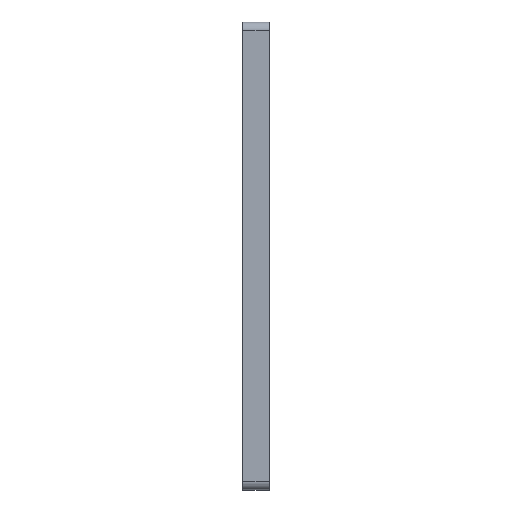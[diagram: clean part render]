
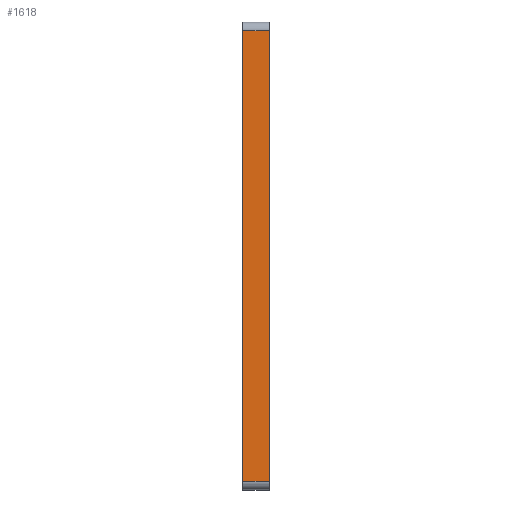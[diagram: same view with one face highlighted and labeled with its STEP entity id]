
A CAD part, left-side view. The second image highlights one B-rep face of the part: STEP entity #1618.
In plain terms, the highlighted planar face has unit normal (-1, 0, 0).
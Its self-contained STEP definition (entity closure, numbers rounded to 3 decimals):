
#112=FACE_OUTER_BOUND('',#230,.T.);
#230=EDGE_LOOP('',(#1359,#1360,#1361,#1362));
#274=LINE('',#2235,#462);
#353=LINE('',#2436,#541);
#437=LINE('',#2614,#625);
#438=LINE('',#2615,#626);
#462=VECTOR('',#1806,10.);
#541=VECTOR('',#1949,10.);
#625=VECTOR('',#2115,10.);
#626=VECTOR('',#2116,10.);
#694=VERTEX_POINT('',#2232);
#695=VERTEX_POINT('',#2234);
#784=VERTEX_POINT('',#2433);
#785=VERTEX_POINT('',#2435);
#846=EDGE_CURVE('',#695,#694,#274,.T.);
#946=EDGE_CURVE('',#784,#785,#353,.T.);
#1045=EDGE_CURVE('',#785,#694,#437,.T.);
#1046=EDGE_CURVE('',#695,#784,#438,.T.);
#1359=ORIENTED_EDGE('',*,*,#846,.T.);
#1360=ORIENTED_EDGE('',*,*,#1045,.F.);
#1361=ORIENTED_EDGE('',*,*,#946,.F.);
#1362=ORIENTED_EDGE('',*,*,#1046,.F.);
#1556=PLANE('',#1750);
#1618=ADVANCED_FACE('',(#112),#1556,.T.);
#1750=AXIS2_PLACEMENT_3D('',#2613,#2113,#2114);
#1806=DIRECTION('',(0.,0.,-1.));
#1949=DIRECTION('',(0.,0.,-1.));
#2113=DIRECTION('center_axis',(-1.,0.,0.));
#2114=DIRECTION('ref_axis',(0.,0.,-1.));
#2115=DIRECTION('',(0.,1.,0.));
#2116=DIRECTION('',(0.,-1.,0.));
#2232=CARTESIAN_POINT('',(98.173,7.6,-25.924));
#2234=CARTESIAN_POINT('',(98.173,7.6,76.076));
#2235=CARTESIAN_POINT('',(98.173,7.6,14.205));
#2433=CARTESIAN_POINT('',(98.173,1.6,76.076));
#2435=CARTESIAN_POINT('',(98.173,1.6,-25.924));
#2436=CARTESIAN_POINT('',(98.173,1.6,27.923));
#2613=CARTESIAN_POINT('Origin',(98.173,5.6,12.205));
#2614=CARTESIAN_POINT('',(98.173,5.6,-25.924));
#2615=CARTESIAN_POINT('',(98.173,5.85,76.076));
